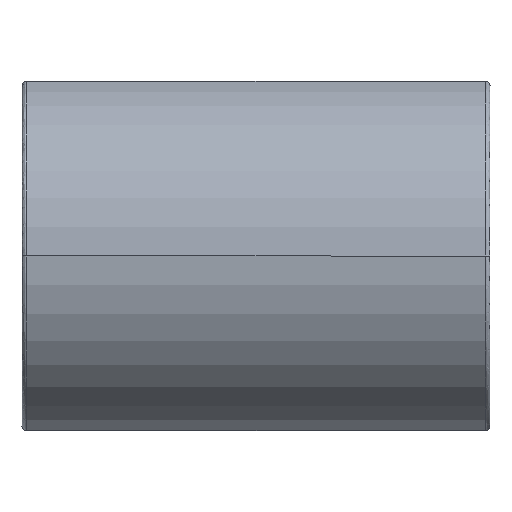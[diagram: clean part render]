
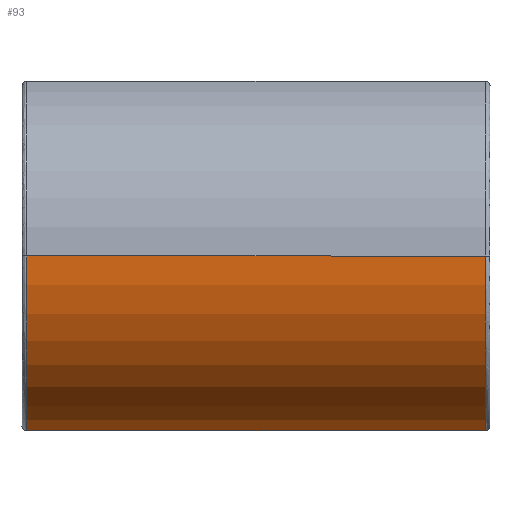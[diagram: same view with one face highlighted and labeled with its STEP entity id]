
A CAD part, front view. The second image highlights one B-rep face of the part: STEP entity #93.
In plain terms, the highlighted cylindrical face has radius 19.5 mm (diameter 39 mm), a partial arc.
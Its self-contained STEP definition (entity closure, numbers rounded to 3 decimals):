
#93 = ADVANCED_FACE ( 'NONE', ( #4649 ), #4761, .T. ) ;
#161 = VERTEX_POINT ( 'NONE', #3612 ) ;
#428 = VERTEX_POINT ( 'NONE', #3504 ) ;
#858 = VERTEX_POINT ( 'NONE', #3569 ) ;
#927 = VERTEX_POINT ( 'NONE', #3587 ) ;
#1630 = CARTESIAN_POINT ( 'NONE',  ( 49.7, -5.356, -18.75 ) ) ;
#1636 = DIRECTION ( 'NONE',  ( 1., 0., 0. ) ) ;
#1685 = DIRECTION ( 'NONE',  ( 0., -1., 0. ) ) ;
#1688 = DIRECTION ( 'NONE',  ( -1., 0., 0. ) ) ;
#1689 = CARTESIAN_POINT ( 'NONE',  ( 49.7, -19.5, 0. ) ) ;
#1707 = DIRECTION ( 'NONE',  ( 1., 0., 0. ) ) ;
#1710 = CARTESIAN_POINT ( 'NONE',  ( 49.7, 0., 0. ) ) ;
#1836 = DIRECTION ( 'NONE',  ( 0., -1., 0. ) ) ;
#1852 = CARTESIAN_POINT ( 'NONE',  ( 0.5, 0., 0. ) ) ;
#2049 = DIRECTION ( 'NONE',  ( -1., 0., 0. ) ) ;
#2947 = DIRECTION ( 'NONE',  ( -1., 0., 0. ) ) ;
#2969 = CARTESIAN_POINT ( 'NONE',  ( 49.7, 0., 0. ) ) ;
#2977 = DIRECTION ( 'NONE',  ( 0., -1., 0. ) ) ;
#3504 = CARTESIAN_POINT ( 'NONE',  ( 49.7, -5.356, -18.75 ) ) ;
#3569 = CARTESIAN_POINT ( 'NONE',  ( 0.5, -5.356, -18.75 ) ) ;
#3587 = CARTESIAN_POINT ( 'NONE',  ( 0.5, -19.5, 0. ) ) ;
#3612 = CARTESIAN_POINT ( 'NONE',  ( 49.7, -19.5, 0. ) ) ;
#4318 = VECTOR ( 'NONE', #1636, 1000. ) ;
#4331 = LINE ( 'NONE', #1630, #4318 ) ;
#4466 = LINE ( 'NONE', #1689, #4498 ) ;
#4497 = CIRCLE ( 'NONE', #7121, 19.5 ) ;
#4498 = VECTOR ( 'NONE', #2049, 1000. ) ;
#4521 = CIRCLE ( 'NONE', #7073, 19.5 ) ;
#4649 = FACE_OUTER_BOUND ( 'NONE', #5683, .T. ) ;
#4761 = CYLINDRICAL_SURFACE ( 'NONE', #6061, 19.5 ) ;
#5242 = ORIENTED_EDGE ( 'NONE', *, *, #6606, .T. ) ;
#5259 = ORIENTED_EDGE ( 'NONE', *, *, #6605, .F. ) ;
#5572 = ORIENTED_EDGE ( 'NONE', *, *, #6607, .F. ) ;
#5585 = ORIENTED_EDGE ( 'NONE', *, *, #6645, .T. ) ;
#5683 = EDGE_LOOP ( 'NONE', ( #5572, #5242, #5259, #5585 ) ) ;
#6061 = AXIS2_PLACEMENT_3D ( 'NONE', #2969, #2947, #2977 ) ;
#6605 = EDGE_CURVE ( 'NONE', #858, #927, #4497, .T. ) ;
#6606 = EDGE_CURVE ( 'NONE', #161, #927, #4466, .T. ) ;
#6607 = EDGE_CURVE ( 'NONE', #161, #428, #4521, .T. ) ;
#6645 = EDGE_CURVE ( 'NONE', #858, #428, #4331, .T. ) ;
#7073 = AXIS2_PLACEMENT_3D ( 'NONE', #1710, #1707, #1836 ) ;
#7121 = AXIS2_PLACEMENT_3D ( 'NONE', #1852, #1688, #1685 ) ;
